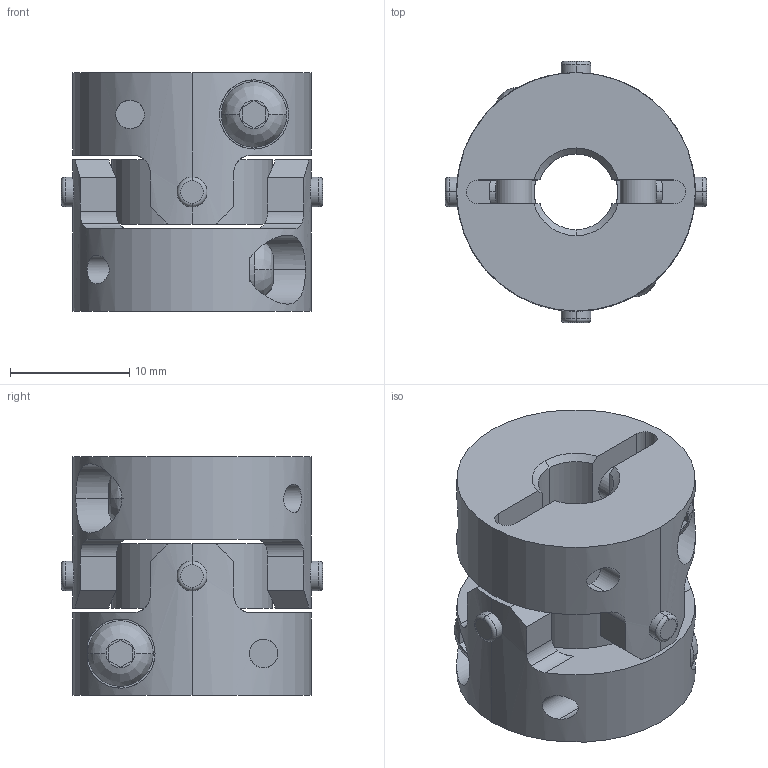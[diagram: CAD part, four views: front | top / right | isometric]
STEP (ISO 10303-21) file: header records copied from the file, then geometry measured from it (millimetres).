
FILE_DESCRIPTION((''),'2;1');
FILE_NAME('UA-20C-6.35×7.stp','2013-11-12T14:12:37',(''),(''),'AutoCAD STEP 2000i','AutoCAD 2000i',', , ');
FILE_SCHEMA(('CONFIG_CONTROL_DESIGN'));
Length unit declared in the file: millimetre
Products named in the file (7): UA-20C-4×7; 忣兜1; UA-2002-D07; BTN-M3; UA-2002-D04-1; UA-2002-D04; UA20-SEN
Assembly tree (8 placements, depth 3):
  UA-20C-4×7
    忣兜1
    UA-2002-D07
      BTN-M3
    UA-2002-D04-1
      BTN-M3
    UA-2002-D04
      BTN-M3
    UA20-SEN
Bounding box: 21.89 x 21.89 x 20 mm (x, y, z)
Volume: 4377.3 mm3; surface area: 3839.8 mm2
Topology: 1 solids, 1 shells, 206 faces, 554 edges, 364 vertices
Faces by surface type: cylinder 96, plane 78, cone 16, bspline 8, torus 8
Entity records: 8025 total; most frequent: CARTESIAN_POINT 2689, ORIENTED_EDGE 1108, DIRECTION 1068, EDGE_CURVE 554, AXIS2_PLACEMENT_3D 411, VERTEX_POINT 364, VECTOR 246, LINE 246
